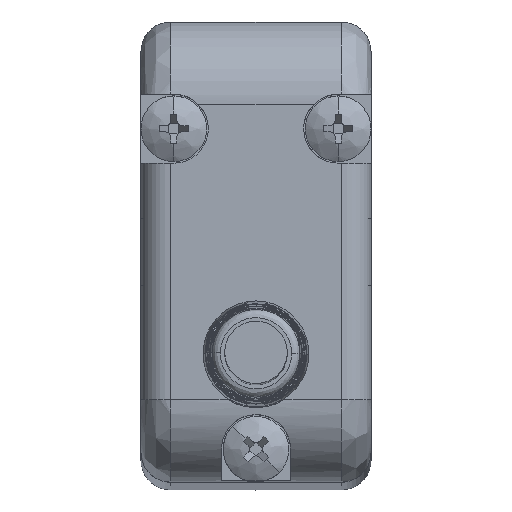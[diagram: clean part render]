
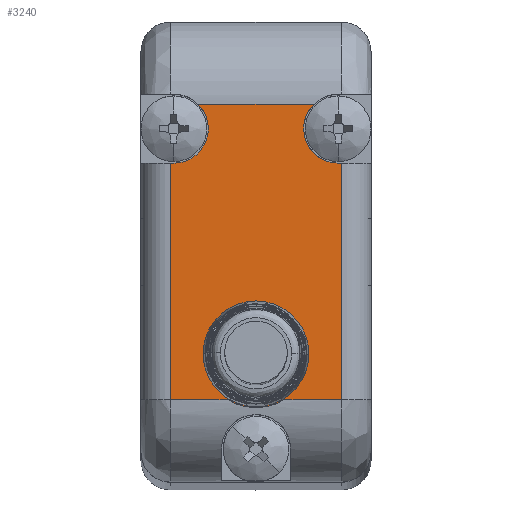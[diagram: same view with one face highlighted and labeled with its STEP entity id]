
A CAD part, top view. The second image highlights one B-rep face of the part: STEP entity #3240.
In plain terms, the highlighted planar face has unit normal (0, 0, 1).
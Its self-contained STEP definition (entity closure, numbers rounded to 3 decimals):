
#53 = AXIS2_PLACEMENT_3D ( 'NONE', #11421, #2601, #6318 ) ;
#128 = ORIENTED_EDGE ( 'NONE', *, *, #7972, .F. ) ;
#135 = VERTEX_POINT ( 'NONE', #7729 ) ;
#246 = VERTEX_POINT ( 'NONE', #10055 ) ;
#284 = VECTOR ( 'NONE', #8483, 1000. ) ;
#568 = LINE ( 'NONE', #4000, #5253 ) ;
#593 = EDGE_CURVE ( 'NONE', #7660, #4741, #11780, .T. ) ;
#629 = CARTESIAN_POINT ( 'NONE',  ( 44.828, -0.425, 58.281 ) ) ;
#1273 = CARTESIAN_POINT ( 'NONE',  ( 46.349, 2.34, 58.281 ) ) ;
#1288 = VERTEX_POINT ( 'NONE', #1273 ) ;
#1326 = LINE ( 'NONE', #10446, #11434 ) ;
#1404 = DIRECTION ( 'NONE',  ( -1., 0., 0. ) ) ;
#1411 = CIRCLE ( 'NONE', #5627, 2.1 ) ;
#1593 = CARTESIAN_POINT ( 'NONE',  ( 39.91, 2.411, 58.281 ) ) ;
#1632 = DIRECTION ( 'NONE',  ( 1., 0., 0. ) ) ;
#1638 = VERTEX_POINT ( 'NONE', #1593 ) ;
#1640 = DIRECTION ( 'NONE',  ( 1., 0., 0. ) ) ;
#1691 = DIRECTION ( 'NONE',  ( 0., 0., 1. ) ) ;
#1743 = ORIENTED_EDGE ( 'NONE', *, *, #6763, .F. ) ;
#1853 = DIRECTION ( 'NONE',  ( 0., 0., -1. ) ) ;
#1896 = CARTESIAN_POINT ( 'NONE',  ( 39.599, 17.575, 58.281 ) ) ;
#2084 = VERTEX_POINT ( 'NONE', #9921 ) ;
#2564 = CARTESIAN_POINT ( 'NONE',  ( 43.13, 2.375, 58.281 ) ) ;
#2601 = DIRECTION ( 'NONE',  ( 0., 0., 1. ) ) ;
#2704 = EDGE_CURVE ( 'NONE', #1638, #1288, #4954, .T. ) ;
#2740 = ORIENTED_EDGE ( 'NONE', *, *, #7300, .F. ) ;
#2769 = CARTESIAN_POINT ( 'NONE',  ( 43.13, 2.375, 58.281 ) ) ;
#2861 = DIRECTION ( 'NONE',  ( -1., 0., 0. ) ) ;
#2992 = AXIS2_PLACEMENT_3D ( 'NONE', #4518, #8158, #6368 ) ;
#3038 = DIRECTION ( 'NONE',  ( -1., 0., 0. ) ) ;
#3240 = ADVANCED_FACE ( 'NONE', ( #6832, #10487 ), #8974, .F. ) ;
#3316 = EDGE_CURVE ( 'NONE', #1288, #1638, #11286, .T. ) ;
#3402 = VERTEX_POINT ( 'NONE', #9430 ) ;
#3417 = LINE ( 'NONE', #7895, #10949 ) ;
#3491 = ORIENTED_EDGE ( 'NONE', *, *, #10754, .T. ) ;
#3806 = CARTESIAN_POINT ( 'NONE',  ( 48.13, 13.975, 58.281 ) ) ;
#3999 = ORIENTED_EDGE ( 'NONE', *, *, #10918, .F. ) ;
#4000 = CARTESIAN_POINT ( 'NONE',  ( 43.13, -0.425, 58.281 ) ) ;
#4518 = CARTESIAN_POINT ( 'NONE',  ( 48.13, 16.075, 58.281 ) ) ;
#4583 = AXIS2_PLACEMENT_3D ( 'NONE', #7894, #11674, #8070 ) ;
#4741 = VERTEX_POINT ( 'NONE', #3806 ) ;
#4841 = CARTESIAN_POINT ( 'NONE',  ( 37.93, 8.575, 58.281 ) ) ;
#4954 = CIRCLE ( 'NONE', #11631, 3.219 ) ;
#5065 = CARTESIAN_POINT ( 'NONE',  ( 48.33, 13.975, 58.281 ) ) ;
#5203 = LINE ( 'NONE', #10690, #7195 ) ;
#5253 = VECTOR ( 'NONE', #1404, 1000. ) ;
#5457 = EDGE_CURVE ( 'NONE', #5982, #135, #3417, .T. ) ;
#5504 = CARTESIAN_POINT ( 'NONE',  ( 49.13, 13.975, 58.281 ) ) ;
#5627 = AXIS2_PLACEMENT_3D ( 'NONE', #11587, #1691, #1632 ) ;
#5982 = VERTEX_POINT ( 'NONE', #10093 ) ;
#6235 = EDGE_CURVE ( 'NONE', #2084, #11012, #568, .T. ) ;
#6243 = VECTOR ( 'NONE', #3038, 1000. ) ;
#6312 = EDGE_CURVE ( 'NONE', #9671, #10386, #1411, .T. ) ;
#6318 = DIRECTION ( 'NONE',  ( 1., 0., 0. ) ) ;
#6368 = DIRECTION ( 'NONE',  ( 1., 0., 0. ) ) ;
#6578 = DIRECTION ( 'NONE',  ( 0., 0., -1. ) ) ;
#6763 = EDGE_CURVE ( 'NONE', #11012, #5982, #8861, .T. ) ;
#6832 = FACE_OUTER_BOUND ( 'NONE', #10471, .T. ) ;
#7195 = VECTOR ( 'NONE', #1640, 1000. ) ;
#7201 = ORIENTED_EDGE ( 'NONE', *, *, #9844, .T. ) ;
#7300 = EDGE_CURVE ( 'NONE', #246, #9671, #10977, .T. ) ;
#7548 = VERTEX_POINT ( 'NONE', #5065 ) ;
#7660 = VERTEX_POINT ( 'NONE', #10954 ) ;
#7729 = CARTESIAN_POINT ( 'NONE',  ( 37.93, -0.425, 58.281 ) ) ;
#7836 = AXIS2_PLACEMENT_3D ( 'NONE', #2564, #9031, #9761 ) ;
#7894 = CARTESIAN_POINT ( 'NONE',  ( 48.33, -0.425, 58.281 ) ) ;
#7895 = CARTESIAN_POINT ( 'NONE',  ( 43.13, -0.425, 58.281 ) ) ;
#7935 = EDGE_LOOP ( 'NONE', ( #10321, #10993 ) ) ;
#7972 = EDGE_CURVE ( 'NONE', #135, #3402, #11059, .T. ) ;
#8070 = DIRECTION ( 'NONE',  ( -1., 0., 0. ) ) ;
#8158 = DIRECTION ( 'NONE',  ( 0., 0., 1. ) ) ;
#8477 = LINE ( 'NONE', #11246, #6243 ) ;
#8483 = DIRECTION ( 'NONE',  ( 0., 1., 0. ) ) ;
#8572 = ORIENTED_EDGE ( 'NONE', *, *, #11729, .F. ) ;
#8861 = CIRCLE ( 'NONE', #10401, 3.275 ) ;
#8974 = PLANE ( 'NONE',  #4583 ) ;
#9031 = DIRECTION ( 'NONE',  ( 0., 0., -1. ) ) ;
#9122 = ORIENTED_EDGE ( 'NONE', *, *, #5457, .F. ) ;
#9172 = DIRECTION ( 'NONE',  ( -1., 0., 0. ) ) ;
#9430 = CARTESIAN_POINT ( 'NONE',  ( 37.93, 13.975, 58.281 ) ) ;
#9450 = CARTESIAN_POINT ( 'NONE',  ( 43.13, 2.375, 58.281 ) ) ;
#9671 = VERTEX_POINT ( 'NONE', #10222 ) ;
#9761 = DIRECTION ( 'NONE',  ( -1., 0., 0. ) ) ;
#9844 = EDGE_CURVE ( 'NONE', #246, #3402, #8477, .T. ) ;
#9921 = CARTESIAN_POINT ( 'NONE',  ( 48.33, -0.425, 58.281 ) ) ;
#10055 = CARTESIAN_POINT ( 'NONE',  ( 38.13, 13.975, 58.281 ) ) ;
#10093 = CARTESIAN_POINT ( 'NONE',  ( 41.431, -0.425, 58.281 ) ) ;
#10222 = CARTESIAN_POINT ( 'NONE',  ( 40.23, 16.075, 58.281 ) ) ;
#10321 = ORIENTED_EDGE ( 'NONE', *, *, #2704, .T. ) ;
#10357 = DIRECTION ( 'NONE',  ( -1., 0., 0. ) ) ;
#10386 = VERTEX_POINT ( 'NONE', #1896 ) ;
#10401 = AXIS2_PLACEMENT_3D ( 'NONE', #9450, #6578, #10357 ) ;
#10446 = CARTESIAN_POINT ( 'NONE',  ( 48.33, 8.575, 58.281 ) ) ;
#10471 = EDGE_LOOP ( 'NONE', ( #9122, #1743, #11772, #8572, #3491, #10804, #3999, #11120, #2740, #7201, #128 ) ) ;
#10487 = FACE_BOUND ( 'NONE', #7935, .T. ) ;
#10511 = DIRECTION ( 'NONE',  ( 0., -1., 0. ) ) ;
#10662 = DIRECTION ( 'NONE',  ( -1., 0., 0. ) ) ;
#10690 = CARTESIAN_POINT ( 'NONE',  ( 43.13, 17.575, 58.281 ) ) ;
#10754 = EDGE_CURVE ( 'NONE', #7548, #4741, #11055, .T. ) ;
#10804 = ORIENTED_EDGE ( 'NONE', *, *, #593, .F. ) ;
#10918 = EDGE_CURVE ( 'NONE', #10386, #7660, #5203, .T. ) ;
#10949 = VECTOR ( 'NONE', #10662, 1000. ) ;
#10954 = CARTESIAN_POINT ( 'NONE',  ( 46.66, 17.575, 58.281 ) ) ;
#10977 = CIRCLE ( 'NONE', #53, 2.1 ) ;
#10993 = ORIENTED_EDGE ( 'NONE', *, *, #3316, .T. ) ;
#11012 = VERTEX_POINT ( 'NONE', #629 ) ;
#11055 = LINE ( 'NONE', #5504, #11215 ) ;
#11059 = LINE ( 'NONE', #4841, #284 ) ;
#11120 = ORIENTED_EDGE ( 'NONE', *, *, #6312, .F. ) ;
#11215 = VECTOR ( 'NONE', #2861, 1000. ) ;
#11246 = CARTESIAN_POINT ( 'NONE',  ( 37.13, 13.975, 58.281 ) ) ;
#11286 = CIRCLE ( 'NONE', #7836, 3.219 ) ;
#11421 = CARTESIAN_POINT ( 'NONE',  ( 38.13, 16.075, 58.281 ) ) ;
#11434 = VECTOR ( 'NONE', #10511, 1000. ) ;
#11587 = CARTESIAN_POINT ( 'NONE',  ( 38.13, 16.075, 58.281 ) ) ;
#11631 = AXIS2_PLACEMENT_3D ( 'NONE', #2769, #1853, #9172 ) ;
#11674 = DIRECTION ( 'NONE',  ( 0., 0., -1. ) ) ;
#11729 = EDGE_CURVE ( 'NONE', #7548, #2084, #1326, .T. ) ;
#11772 = ORIENTED_EDGE ( 'NONE', *, *, #6235, .F. ) ;
#11780 = CIRCLE ( 'NONE', #2992, 2.1 ) ;
